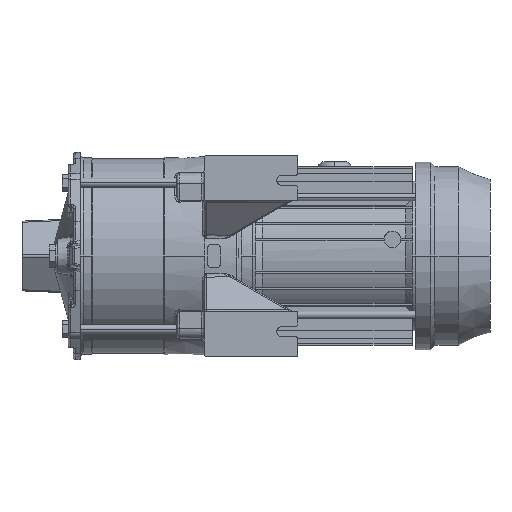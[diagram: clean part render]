
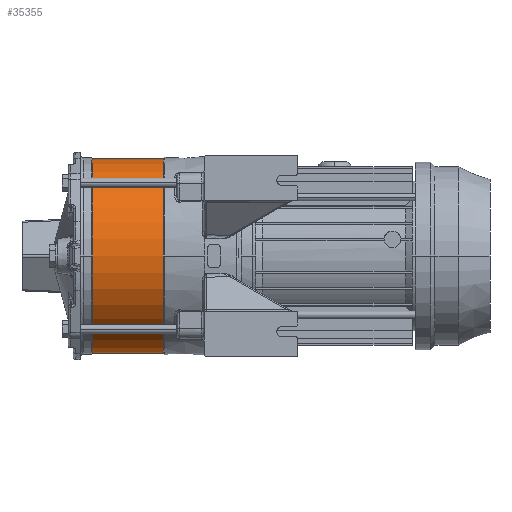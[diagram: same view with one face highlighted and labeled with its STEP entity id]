
A CAD part, front view. The second image highlights one B-rep face of the part: STEP entity #35355.
In plain terms, the highlighted cylindrical face has radius 64.5 mm (diameter 129 mm), a partial arc.
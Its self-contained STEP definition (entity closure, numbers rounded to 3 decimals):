
#35210=CARTESIAN_POINT('',(0.,0.,0.));
#35211=DIRECTION('',(0.,0.,1.));
#35212=DIRECTION('',(-1.,0.,0.));
#35213=AXIS2_PLACEMENT_3D('',#35210,#35211,#35212);
#35234=DIRECTION('',(0.,0.,1.));
#35235=VECTOR('',#35234,47.);
#35236=CARTESIAN_POINT('',(64.5,0.,0.));
#35237=LINE('',#35236,#35235);
#35241=DIRECTION('',(0.,0.,1.));
#35242=VECTOR('',#35241,47.);
#35243=CARTESIAN_POINT('',(-64.5,0.,0.));
#35244=LINE('',#35243,#35242);
#35256=CARTESIAN_POINT('',(0.,0.,47.));
#35257=DIRECTION('',(0.,0.,1.));
#35258=DIRECTION('',(-1.,0.,0.));
#35259=AXIS2_PLACEMENT_3D('',#35256,#35257,#35258);
#35294=CARTESIAN_POINT('',(64.5,0.,0.));
#35295=CARTESIAN_POINT('',(-64.5,0.,0.));
#35296=VERTEX_POINT('',#35294);
#35297=VERTEX_POINT('',#35295);
#35302=CARTESIAN_POINT('',(64.5,0.,47.));
#35303=CARTESIAN_POINT('',(-64.5,0.,47.));
#35304=VERTEX_POINT('',#35302);
#35305=VERTEX_POINT('',#35303);
#35343=CARTESIAN_POINT('',(0.,0.,0.));
#35344=DIRECTION('',(0.,0.,1.));
#35345=DIRECTION('',(1.,0.,0.));
#35346=AXIS2_PLACEMENT_3D('',#35343,#35344,#35345);
#35347=CYLINDRICAL_SURFACE('',#35346,64.5);
#35348=ORIENTED_EDGE('',*,*,#35317,.F.);
#35349=ORIENTED_EDGE('',*,*,#35338,.T.);
#35351=ORIENTED_EDGE('',*,*,#35350,.T.);
#35352=ORIENTED_EDGE('',*,*,#35334,.F.);
#35353=EDGE_LOOP('',(#35348,#35349,#35351,#35352));
#35354=FACE_OUTER_BOUND('',#35353,.F.);
#35214=CIRCLE('',#35213,64.5);
#35260=CIRCLE('',#35259,64.5);
#35317=EDGE_CURVE('',#35297,#35296,#35214,.T.);
#35334=EDGE_CURVE('',#35296,#35304,#35237,.T.);
#35338=EDGE_CURVE('',#35297,#35305,#35244,.T.);
#35350=EDGE_CURVE('',#35305,#35304,#35260,.T.);
#35355=ADVANCED_FACE('',(#35354),#35347,.T.);
